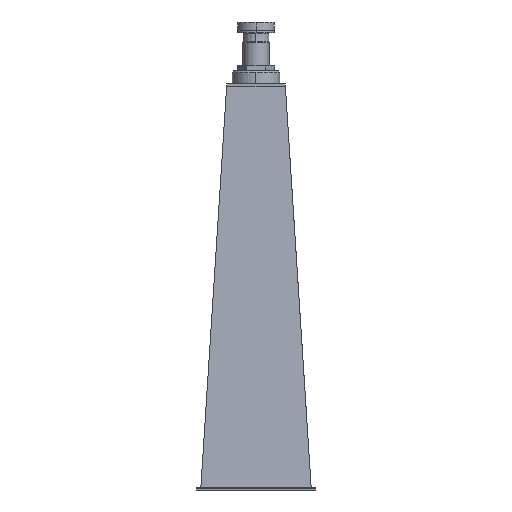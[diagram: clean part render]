
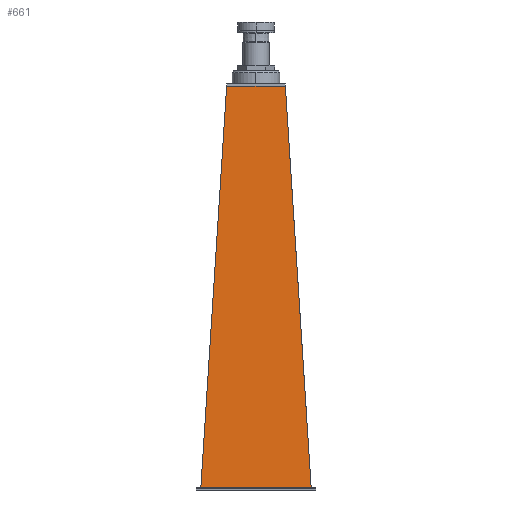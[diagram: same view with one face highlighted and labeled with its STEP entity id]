
A CAD part, left-side view. The second image highlights one B-rep face of the part: STEP entity #661.
In plain terms, the highlighted planar face has unit normal (-0.998, 0, 0.064).
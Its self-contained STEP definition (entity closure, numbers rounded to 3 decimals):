
#661=ADVANCED_FACE('',(#1354),#1355,.F.);
#1354=FACE_OUTER_BOUND('',#2118,.T.);
#1355=PLANE('',#2119);
#2118=EDGE_LOOP('',(#4116,#4117,#4118,#4119));
#2119=AXIS2_PLACEMENT_3D('',#4120,#4121,#4122);
#4116=ORIENTED_EDGE('',*,*,#5139,.T.);
#4117=ORIENTED_EDGE('',*,*,#4897,.F.);
#4118=ORIENTED_EDGE('',*,*,#5159,.F.);
#4119=ORIENTED_EDGE('',*,*,#5155,.T.);
#4120=CARTESIAN_POINT('',(29.955,99.591,935.193));
#4121=DIRECTION('',(0.998,0.,-0.064));
#4122=DIRECTION('',(0.,-1.0,0.));
#4897=EDGE_CURVE('',#5907,#5902,#5909,.T.);
#5139=EDGE_CURVE('',#6227,#5902,#6228,.T.);
#5155=EDGE_CURVE('',#6249,#6227,#6250,.T.);
#5159=EDGE_CURVE('',#6249,#5907,#6255,.T.);
#5902=VERTEX_POINT('',#7627);
#5907=VERTEX_POINT('',#7634);
#5909=LINE('',#7637,#7638);
#6227=VERTEX_POINT('',#8215);
#6228=LINE('',#8216,#8217);
#6249=VERTEX_POINT('',#8248);
#6250=LINE('',#8249,#8250);
#6255=LINE('',#8257,#8258);
#7627=CARTESIAN_POINT('',(-29.865,36.778,6.));
#7634=CARTESIAN_POINT('',(29.942,96.585,935.));
#7637=CARTESIAN_POINT('',(30.234,96.877,939.534));
#7638=VECTOR('',#8849,1.);
#8215=CARTESIAN_POINT('',(-29.865,292.404,6.));
#8216=CARTESIAN_POINT('',(-29.865,132.091,6.));
#8217=VECTOR('',#9021,1.0);
#8248=CARTESIAN_POINT('',(29.942,232.597,935.));
#8249=CARTESIAN_POINT('',(30.234,232.306,939.534));
#8250=VECTOR('',#9032,1.);
#8257=CARTESIAN_POINT('',(29.942,132.091,935.));
#8258=VECTOR('',#9035,1.0);
#8849=DIRECTION('',(-0.064,-0.064,-0.996));
#9021=DIRECTION('',(0.,-1.0,0.));
#9032=DIRECTION('',(-0.064,0.064,-0.996));
#9035=DIRECTION('',(0.,-1.0,0.));
